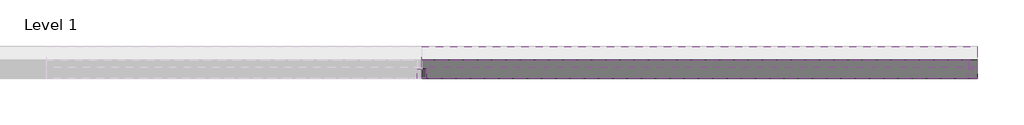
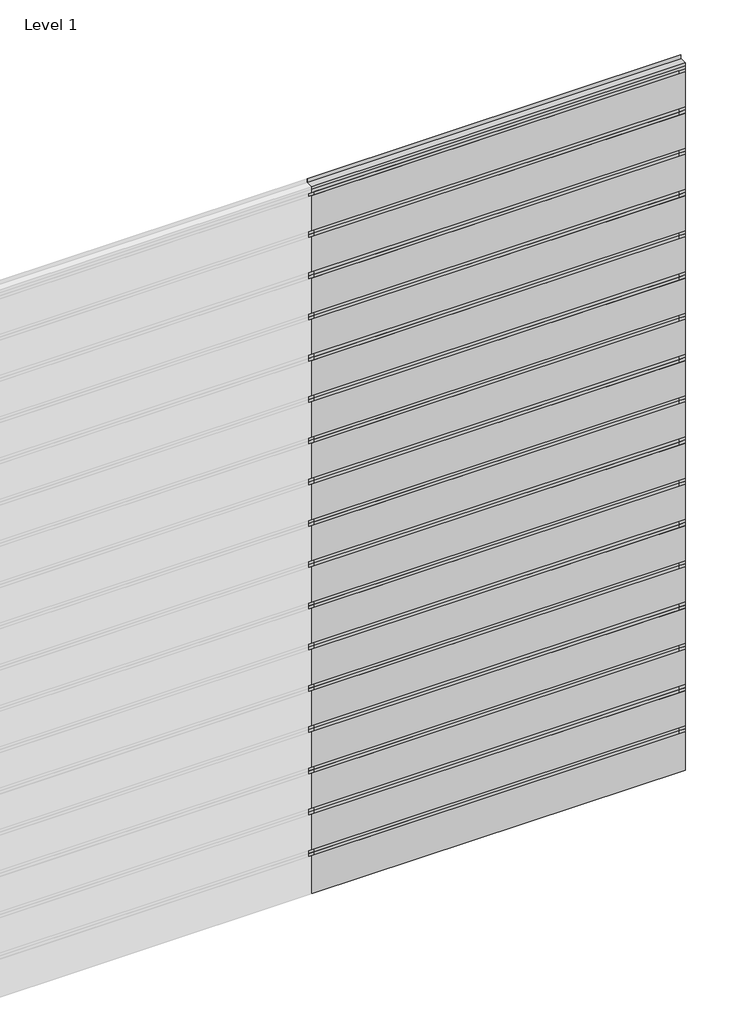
# One storey, part 2 of 2: 43 members, 36 plates.
"""IFC4 building model written with IfcOpenShell, lengths in millimetres."""

from ifc_helpers import new_model, si_unit, origin, place, context, project, spatial, transform, mapped, element, save
from components import rectangular_mullion_321bab66, rectangular_mullion_94c598e1, rectangular_mullion_98250b89, empty_system_panel_empty_eb7023d6, empty_system_panel_empty_e21ca438, empty_system_panel_empty_ca83fffd, empty_system_panel_empty_a0d4dec4, empty_system_panel_empty_5b0c2a42

model = new_model("IFC4")

# Units and contexts
model_context = context("Model", 3, world=origin())
ifc_project = project(units=[si_unit("LENGTHUNIT", "METRE", prefix="MILLI")], contexts=[model_context])

# Site, building, storey
site = spatial("IfcSite", under=ifc_project)
building = spatial("IfcBuilding", under=site)
storey = spatial("IfcBuildingStorey", under=building, Name="Level 1", Elevation=0.0)

# Members
placement = place(None, origin())
rectangular_mullion_shape = rectangular_mullion_321bab66(model_context)
element("IfcMember", 1, ObjectType="Rectangular Mullion : RSen_21_CWM_blade - linear 200_gen_duco projects", at=placement, inside=storey, context=model_context, shape_type="MappedRepresentation", body=[
    mapped(rectangular_mullion_shape, transform((3000.0, 3000.0, 3150.0), x_axis=(0.0, 0.0, 1.0), y_axis=(0.0, 1.0, 0.0), z_axis=(-1.0, 0.0, 0.0))),
])
element("IfcMember", 2, ObjectType="Rectangular Mullion : RSen_21_CWM_blade - linear 200_gen_duco projects", at=placement, inside=storey, context=model_context, shape_type="MappedRepresentation", body=[
    mapped(rectangular_mullion_shape, transform((3000.0, 3000.0, 3500.0), x_axis=(0.0, 0.0, 1.0), y_axis=(0.0, 1.0, 0.0), z_axis=(-1.0, 0.0, 0.0))),
])
element("IfcMember", 3, ObjectType="Rectangular Mullion : RSen_21_CWM_blade - linear 200_gen_duco projects", at=placement, inside=storey, context=model_context, shape_type="MappedRepresentation", body=[
    mapped(rectangular_mullion_shape, transform((3000.0, 3000.0, 3850.0), x_axis=(0.0, 0.0, 1.0), y_axis=(0.0, 1.0, 0.0), z_axis=(-1.0, 0.0, 0.0))),
])
element("IfcMember", 4, ObjectType="Rectangular Mullion : RSen_21_CWM_blade - linear 200_gen_duco projects", at=placement, inside=storey, context=model_context, shape_type="MappedRepresentation", body=[
    mapped(rectangular_mullion_shape, transform((3000.0, 3000.0, 4200.0), x_axis=(0.0, 0.0, 1.0), y_axis=(0.0, 1.0, 0.0), z_axis=(-1.0, 0.0, 0.0))),
])
element("IfcMember", 5, ObjectType="Rectangular Mullion : RSen_21_CWM_blade - linear 200_gen_duco projects", at=placement, inside=storey, context=model_context, shape_type="MappedRepresentation", body=[
    mapped(rectangular_mullion_shape, transform((3000.0, 3000.0, 4550.0), x_axis=(0.0, 0.0, 1.0), y_axis=(0.0, 1.0, 0.0), z_axis=(-1.0, 0.0, 0.0))),
])
element("IfcMember", 6, ObjectType="Rectangular Mullion : RSen_21_CWM_blade - linear 200_gen_duco projects", at=placement, inside=storey, context=model_context, shape_type="MappedRepresentation", body=[
    mapped(rectangular_mullion_shape, transform((3000.0, 3000.0, 4900.0), x_axis=(0.0, 0.0, 1.0), y_axis=(0.0, 1.0, 0.0), z_axis=(-1.0, 0.0, 0.0))),
])
element("IfcMember", 7, ObjectType="Rectangular Mullion : RSen_21_CWM_blade - linear 200_gen_duco projects", at=placement, inside=storey, context=model_context, shape_type="MappedRepresentation", body=[
    mapped(rectangular_mullion_shape, transform((3000.0, 3000.0, 5250.0), x_axis=(0.0, 0.0, 1.0), y_axis=(0.0, 1.0, 0.0), z_axis=(-1.0, 0.0, 0.0))),
])
element("IfcMember", 8, ObjectType="Rectangular Mullion : RSen_21_CWM_blade - linear 200_gen_duco projects", at=placement, inside=storey, context=model_context, shape_type="MappedRepresentation", body=[
    mapped(rectangular_mullion_shape, transform((3000.0, 3000.0, 5600.0), x_axis=(0.0, 0.0, 1.0), y_axis=(0.0, 1.0, 0.0), z_axis=(-1.0, 0.0, 0.0))),
])
element("IfcMember", 9, ObjectType="Rectangular Mullion : RSen_21_CWM_blade - linear 200_gen_duco projects", at=placement, inside=storey, context=model_context, shape_type="MappedRepresentation", body=[
    mapped(rectangular_mullion_shape, transform((3000.0, 3000.0, 5950.0), x_axis=(0.0, 0.0, 1.0), y_axis=(0.0, 1.0, 0.0), z_axis=(-1.0, 0.0, 0.0))),
])
rectangular_mullion_2_shape = rectangular_mullion_94c598e1(model_context)
element("IfcMember", 10, ObjectType="Rectangular Mullion : RSen_21_CWM_support profile 50x50_gen_duco projects", at=placement, inside=storey, context=model_context, shape_type="MappedRepresentation", body=[
    mapped(rectangular_mullion_2_shape, transform((3000.0, 3000.0, 0.0), x_axis=(-1.0, 0.0, 0.0), y_axis=(0.0, 1.0, 0.0), z_axis=(0.0, 0.0, -1.0))),
])
element("IfcMember", 11, ObjectType="Rectangular Mullion : RSen_21_CWM_support profile 50x50_gen_duco projects", at=placement, inside=storey, context=model_context, shape_type="MappedRepresentation", body=[
    mapped(rectangular_mullion_2_shape, transform((3000.0, 3000.0, 350.0), x_axis=(-1.0, 0.0, 0.0), y_axis=(0.0, 1.0, 0.0), z_axis=(0.0, 0.0, -1.0))),
])
element("IfcMember", 12, ObjectType="Rectangular Mullion : RSen_21_CWM_support profile 50x50_gen_duco projects", at=placement, inside=storey, context=model_context, shape_type="MappedRepresentation", body=[
    mapped(rectangular_mullion_2_shape, transform((3000.0, 3000.0, 700.0), x_axis=(-1.0, 0.0, 0.0), y_axis=(0.0, 1.0, 0.0), z_axis=(0.0, 0.0, -1.0))),
])
element("IfcMember", 13, ObjectType="Rectangular Mullion : RSen_21_CWM_support profile 50x50_gen_duco projects", at=placement, inside=storey, context=model_context, shape_type="MappedRepresentation", body=[
    mapped(rectangular_mullion_2_shape, transform((3000.0, 3000.0, 1050.0), x_axis=(-1.0, 0.0, 0.0), y_axis=(0.0, 1.0, 0.0), z_axis=(0.0, 0.0, -1.0))),
])
element("IfcMember", 14, ObjectType="Rectangular Mullion : RSen_21_CWM_support profile 50x50_gen_duco projects", at=placement, inside=storey, context=model_context, shape_type="MappedRepresentation", body=[
    mapped(rectangular_mullion_2_shape, transform((3000.0, 3000.0, 1400.0), x_axis=(-1.0, 0.0, 0.0), y_axis=(0.0, 1.0, 0.0), z_axis=(0.0, 0.0, -1.0))),
])
element("IfcMember", 15, ObjectType="Rectangular Mullion : RSen_21_CWM_support profile 50x50_gen_duco projects", at=placement, inside=storey, context=model_context, shape_type="MappedRepresentation", body=[
    mapped(rectangular_mullion_2_shape, transform((3000.0, 3000.0, 1750.0), x_axis=(-1.0, 0.0, 0.0), y_axis=(0.0, 1.0, 0.0), z_axis=(0.0, 0.0, -1.0))),
])
element("IfcMember", 16, ObjectType="Rectangular Mullion : RSen_21_CWM_support profile 50x50_gen_duco projects", at=placement, inside=storey, context=model_context, shape_type="MappedRepresentation", body=[
    mapped(rectangular_mullion_2_shape, transform((3000.0, 3000.0, 2100.0), x_axis=(-1.0, 0.0, 0.0), y_axis=(0.0, 1.0, 0.0), z_axis=(0.0, 0.0, -1.0))),
])
element("IfcMember", 17, ObjectType="Rectangular Mullion : RSen_21_CWM_support profile 50x50_gen_duco projects", at=placement, inside=storey, context=model_context, shape_type="MappedRepresentation", body=[
    mapped(rectangular_mullion_2_shape, transform((3000.0, 3000.0, 2450.0), x_axis=(-1.0, 0.0, 0.0), y_axis=(0.0, 1.0, 0.0), z_axis=(0.0, 0.0, -1.0))),
])
element("IfcMember", 18, ObjectType="Rectangular Mullion : RSen_21_CWM_support profile 50x50_gen_duco projects", at=placement, inside=storey, context=model_context, shape_type="MappedRepresentation", body=[
    mapped(rectangular_mullion_2_shape, transform((3000.0, 3000.0, 2800.0), x_axis=(-1.0, 0.0, 0.0), y_axis=(0.0, 1.0, 0.0), z_axis=(0.0, 0.0, -1.0))),
])
element("IfcMember", 19, ObjectType="Rectangular Mullion : RSen_21_CWM_support profile 50x50_gen_duco projects", at=placement, inside=storey, context=model_context, shape_type="MappedRepresentation", body=[
    mapped(rectangular_mullion_2_shape, transform((3000.0, 3000.0, 3150.0), x_axis=(-1.0, 0.0, 0.0), y_axis=(0.0, 1.0, 0.0), z_axis=(0.0, 0.0, -1.0))),
])
element("IfcMember", 20, ObjectType="Rectangular Mullion : RSen_21_CWM_support profile 50x50_gen_duco projects", at=placement, inside=storey, context=model_context, shape_type="MappedRepresentation", body=[
    mapped(rectangular_mullion_2_shape, transform((3000.0, 3000.0, 3500.0), x_axis=(-1.0, 0.0, 0.0), y_axis=(0.0, 1.0, 0.0), z_axis=(0.0, 0.0, -1.0))),
])
element("IfcMember", 21, ObjectType="Rectangular Mullion : RSen_21_CWM_support profile 50x50_gen_duco projects", at=placement, inside=storey, context=model_context, shape_type="MappedRepresentation", body=[
    mapped(rectangular_mullion_2_shape, transform((3000.0, 3000.0, 3850.0), x_axis=(-1.0, 0.0, 0.0), y_axis=(0.0, 1.0, 0.0), z_axis=(0.0, 0.0, -1.0))),
])
element("IfcMember", 22, ObjectType="Rectangular Mullion : RSen_21_CWM_support profile 50x50_gen_duco projects", at=placement, inside=storey, context=model_context, shape_type="MappedRepresentation", body=[
    mapped(rectangular_mullion_2_shape, transform((3000.0, 3000.0, 4200.0), x_axis=(-1.0, 0.0, 0.0), y_axis=(0.0, 1.0, 0.0), z_axis=(0.0, 0.0, -1.0))),
])
element("IfcMember", 23, ObjectType="Rectangular Mullion : RSen_21_CWM_support profile 50x50_gen_duco projects", at=placement, inside=storey, context=model_context, shape_type="MappedRepresentation", body=[
    mapped(rectangular_mullion_2_shape, transform((3000.0, 3000.0, 4550.0), x_axis=(-1.0, 0.0, 0.0), y_axis=(0.0, 1.0, 0.0), z_axis=(0.0, 0.0, -1.0))),
])
element("IfcMember", 24, ObjectType="Rectangular Mullion : RSen_21_CWM_support profile 50x50_gen_duco projects", at=placement, inside=storey, context=model_context, shape_type="MappedRepresentation", body=[
    mapped(rectangular_mullion_2_shape, transform((3000.0, 3000.0, 4900.0), x_axis=(-1.0, 0.0, 0.0), y_axis=(0.0, 1.0, 0.0), z_axis=(0.0, 0.0, -1.0))),
])
element("IfcMember", 25, ObjectType="Rectangular Mullion : RSen_21_CWM_support profile 50x50_gen_duco projects", at=placement, inside=storey, context=model_context, shape_type="MappedRepresentation", body=[
    mapped(rectangular_mullion_2_shape, transform((3000.0, 3000.0, 5250.0), x_axis=(-1.0, 0.0, 0.0), y_axis=(0.0, 1.0, 0.0), z_axis=(0.0, 0.0, -1.0))),
])
element("IfcMember", 26, ObjectType="Rectangular Mullion : RSen_21_CWM_support profile 50x50_gen_duco projects", at=placement, inside=storey, context=model_context, shape_type="MappedRepresentation", body=[
    mapped(rectangular_mullion_2_shape, transform((3000.0, 3000.0, 5600.0), x_axis=(-1.0, 0.0, 0.0), y_axis=(0.0, 1.0, 0.0), z_axis=(0.0, 0.0, -1.0))),
])
rectangular_mullion_3_shape = rectangular_mullion_98250b89(model_context)
element("IfcMember", 27, ObjectType="Rectangular Mullion : RSen_21_CWM_support profile 50x50 - right_gen_duco projects", at=placement, inside=storey, context=model_context, shape_type="MappedRepresentation", body=[
    mapped(rectangular_mullion_3_shape, transform((6000.0, 3000.0, 350.0), x_axis=(1.0, 0.0, 0.0), y_axis=(0.0, 1.0, 0.0), z_axis=(0.0, 0.0, 1.0))),
])
element("IfcMember", 28, ObjectType="Rectangular Mullion : RSen_21_CWM_support profile 50x50 - right_gen_duco projects", at=placement, inside=storey, context=model_context, shape_type="MappedRepresentation", body=[
    mapped(rectangular_mullion_3_shape, transform((6000.0, 3000.0, 700.0), x_axis=(1.0, 0.0, 0.0), y_axis=(0.0, 1.0, 0.0), z_axis=(0.0, 0.0, 1.0))),
])
element("IfcMember", 29, ObjectType="Rectangular Mullion : RSen_21_CWM_support profile 50x50 - right_gen_duco projects", at=placement, inside=storey, context=model_context, shape_type="MappedRepresentation", body=[
    mapped(rectangular_mullion_3_shape, transform((6000.0, 3000.0, 1050.0), x_axis=(1.0, 0.0, 0.0), y_axis=(0.0, 1.0, 0.0), z_axis=(0.0, 0.0, 1.0))),
])
element("IfcMember", 30, ObjectType="Rectangular Mullion : RSen_21_CWM_support profile 50x50 - right_gen_duco projects", at=placement, inside=storey, context=model_context, shape_type="MappedRepresentation", body=[
    mapped(rectangular_mullion_3_shape, transform((6000.0, 3000.0, 1400.0), x_axis=(1.0, 0.0, 0.0), y_axis=(0.0, 1.0, 0.0), z_axis=(0.0, 0.0, 1.0))),
])
element("IfcMember", 31, ObjectType="Rectangular Mullion : RSen_21_CWM_support profile 50x50 - right_gen_duco projects", at=placement, inside=storey, context=model_context, shape_type="MappedRepresentation", body=[
    mapped(rectangular_mullion_3_shape, transform((6000.0, 3000.0, 1750.0), x_axis=(1.0, 0.0, 0.0), y_axis=(0.0, 1.0, 0.0), z_axis=(0.0, 0.0, 1.0))),
])
element("IfcMember", 32, ObjectType="Rectangular Mullion : RSen_21_CWM_support profile 50x50 - right_gen_duco projects", at=placement, inside=storey, context=model_context, shape_type="MappedRepresentation", body=[
    mapped(rectangular_mullion_3_shape, transform((6000.0, 3000.0, 2100.0), x_axis=(1.0, 0.0, 0.0), y_axis=(0.0, 1.0, 0.0), z_axis=(0.0, 0.0, 1.0))),
])
element("IfcMember", 33, ObjectType="Rectangular Mullion : RSen_21_CWM_support profile 50x50 - right_gen_duco projects", at=placement, inside=storey, context=model_context, shape_type="MappedRepresentation", body=[
    mapped(rectangular_mullion_3_shape, transform((6000.0, 3000.0, 2450.0), x_axis=(1.0, 0.0, 0.0), y_axis=(0.0, 1.0, 0.0), z_axis=(0.0, 0.0, 1.0))),
])
element("IfcMember", 34, ObjectType="Rectangular Mullion : RSen_21_CWM_support profile 50x50 - right_gen_duco projects", at=placement, inside=storey, context=model_context, shape_type="MappedRepresentation", body=[
    mapped(rectangular_mullion_3_shape, transform((6000.0, 3000.0, 2800.0), x_axis=(1.0, 0.0, 0.0), y_axis=(0.0, 1.0, 0.0), z_axis=(0.0, 0.0, 1.0))),
])
element("IfcMember", 35, ObjectType="Rectangular Mullion : RSen_21_CWM_support profile 50x50 - right_gen_duco projects", at=placement, inside=storey, context=model_context, shape_type="MappedRepresentation", body=[
    mapped(rectangular_mullion_3_shape, transform((6000.0, 3000.0, 3150.0), x_axis=(1.0, 0.0, 0.0), y_axis=(0.0, 1.0, 0.0), z_axis=(0.0, 0.0, 1.0))),
])
element("IfcMember", 36, ObjectType="Rectangular Mullion : RSen_21_CWM_support profile 50x50 - right_gen_duco projects", at=placement, inside=storey, context=model_context, shape_type="MappedRepresentation", body=[
    mapped(rectangular_mullion_3_shape, transform((6000.0, 3000.0, 3500.0), x_axis=(1.0, 0.0, 0.0), y_axis=(0.0, 1.0, 0.0), z_axis=(0.0, 0.0, 1.0))),
])
element("IfcMember", 37, ObjectType="Rectangular Mullion : RSen_21_CWM_support profile 50x50 - right_gen_duco projects", at=placement, inside=storey, context=model_context, shape_type="MappedRepresentation", body=[
    mapped(rectangular_mullion_3_shape, transform((6000.0, 3000.0, 3850.0), x_axis=(1.0, 0.0, 0.0), y_axis=(0.0, 1.0, 0.0), z_axis=(0.0, 0.0, 1.0))),
])
element("IfcMember", 38, ObjectType="Rectangular Mullion : RSen_21_CWM_support profile 50x50 - right_gen_duco projects", at=placement, inside=storey, context=model_context, shape_type="MappedRepresentation", body=[
    mapped(rectangular_mullion_3_shape, transform((6000.0, 3000.0, 4200.0), x_axis=(1.0, 0.0, 0.0), y_axis=(0.0, 1.0, 0.0), z_axis=(0.0, 0.0, 1.0))),
])
element("IfcMember", 39, ObjectType="Rectangular Mullion : RSen_21_CWM_support profile 50x50 - right_gen_duco projects", at=placement, inside=storey, context=model_context, shape_type="MappedRepresentation", body=[
    mapped(rectangular_mullion_3_shape, transform((6000.0, 3000.0, 4550.0), x_axis=(1.0, 0.0, 0.0), y_axis=(0.0, 1.0, 0.0), z_axis=(0.0, 0.0, 1.0))),
])
element("IfcMember", 40, ObjectType="Rectangular Mullion : RSen_21_CWM_support profile 50x50 - right_gen_duco projects", at=placement, inside=storey, context=model_context, shape_type="MappedRepresentation", body=[
    mapped(rectangular_mullion_3_shape, transform((6000.0, 3000.0, 4900.0), x_axis=(1.0, 0.0, 0.0), y_axis=(0.0, 1.0, 0.0), z_axis=(0.0, 0.0, 1.0))),
])
element("IfcMember", 41, ObjectType="Rectangular Mullion : RSen_21_CWM_support profile 50x50 - right_gen_duco projects", at=placement, inside=storey, context=model_context, shape_type="MappedRepresentation", body=[
    mapped(rectangular_mullion_3_shape, transform((6000.0, 3000.0, 5250.0), x_axis=(1.0, 0.0, 0.0), y_axis=(0.0, 1.0, 0.0), z_axis=(0.0, 0.0, 1.0))),
])
element("IfcMember", 42, ObjectType="Rectangular Mullion : RSen_21_CWM_support profile 50x50 - right_gen_duco projects", at=placement, inside=storey, context=model_context, shape_type="MappedRepresentation", body=[
    mapped(rectangular_mullion_3_shape, transform((6000.0, 3000.0, 5600.0), x_axis=(1.0, 0.0, 0.0), y_axis=(0.0, 1.0, 0.0), z_axis=(0.0, 0.0, 1.0))),
])
element("IfcMember", 43, ObjectType="Rectangular Mullion : RSen_21_CWM_support profile 50x50 - right_gen_duco projects", at=placement, inside=storey, context=model_context, shape_type="MappedRepresentation", body=[
    mapped(rectangular_mullion_3_shape, transform((6000.0, 3000.0, 5950.0), x_axis=(1.0, 0.0, 0.0), y_axis=(0.0, 1.0, 0.0), z_axis=(0.0, 0.0, 1.0))),
])

# Plates
empty_system_panel_empty_shape = empty_system_panel_empty_eb7023d6(model_context)
element("IfcPlate", 44, ObjectType="Empty System Panel : Empty", at=placement, inside=storey, context=model_context, shape_type="MappedRepresentation", body=[
    mapped(empty_system_panel_empty_shape, transform((4500.0, 3000.0, 5976.1629509), x_axis=(-1.0, 0.0, 0.0), y_axis=(0.0, -1.0, 0.0), z_axis=(0.0, 0.0, 1.0))),
])
empty_system_panel_empty_2_shape = empty_system_panel_empty_e21ca438(model_context)
element("IfcPlate", 45, ObjectType="Empty System Panel : Empty", at=placement, inside=storey, context=model_context, shape_type="MappedRepresentation", body=[
    mapped(empty_system_panel_empty_2_shape, transform((4500.0, 3000.0, 0.0), x_axis=(-1.0, 0.0, 0.0), y_axis=(0.0, -1.0, 0.0), z_axis=(0.0, 0.0, 1.0))),
])
empty_system_panel_empty_3_shape = empty_system_panel_empty_ca83fffd(model_context)
element("IfcPlate", 46, ObjectType="Empty System Panel : Empty", at=placement, inside=storey, context=model_context, shape_type="MappedRepresentation", body=[
    mapped(empty_system_panel_empty_3_shape, transform((4500.0, 3000.0, 376.1629509), x_axis=(-1.0, 0.0, 0.0), y_axis=(0.0, -1.0, 0.0), z_axis=(0.0, 0.0, 1.0))),
])
element("IfcPlate", 47, ObjectType="Empty System Panel : Empty", at=placement, inside=storey, context=model_context, shape_type="MappedRepresentation", body=[
    mapped(empty_system_panel_empty_3_shape, transform((4500.0, 3000.0, 726.1629509), x_axis=(-1.0, 0.0, 0.0), y_axis=(0.0, -1.0, 0.0), z_axis=(0.0, 0.0, 1.0))),
])
element("IfcPlate", 48, ObjectType="Empty System Panel : Empty", at=placement, inside=storey, context=model_context, shape_type="MappedRepresentation", body=[
    mapped(empty_system_panel_empty_3_shape, transform((4500.0, 3000.0, 1076.1629509), x_axis=(-1.0, 0.0, 0.0), y_axis=(0.0, -1.0, 0.0), z_axis=(0.0, 0.0, 1.0))),
])
element("IfcPlate", 49, ObjectType="Empty System Panel : Empty", at=placement, inside=storey, context=model_context, shape_type="MappedRepresentation", body=[
    mapped(empty_system_panel_empty_3_shape, transform((4500.0, 3000.0, 1426.1629509), x_axis=(-1.0, 0.0, 0.0), y_axis=(0.0, -1.0, 0.0), z_axis=(0.0, 0.0, 1.0))),
])
element("IfcPlate", 50, ObjectType="Empty System Panel : Empty", at=placement, inside=storey, context=model_context, shape_type="MappedRepresentation", body=[
    mapped(empty_system_panel_empty_3_shape, transform((4500.0, 3000.0, 1776.1629509), x_axis=(-1.0, 0.0, 0.0), y_axis=(0.0, -1.0, 0.0), z_axis=(0.0, 0.0, 1.0))),
])
element("IfcPlate", 51, ObjectType="Empty System Panel : Empty", at=placement, inside=storey, context=model_context, shape_type="MappedRepresentation", body=[
    mapped(empty_system_panel_empty_3_shape, transform((4500.0, 3000.0, 2126.1629509), x_axis=(-1.0, 0.0, 0.0), y_axis=(0.0, -1.0, 0.0), z_axis=(0.0, 0.0, 1.0))),
])
element("IfcPlate", 52, ObjectType="Empty System Panel : Empty", at=placement, inside=storey, context=model_context, shape_type="MappedRepresentation", body=[
    mapped(empty_system_panel_empty_3_shape, transform((4500.0, 3000.0, 2476.1629509), x_axis=(-1.0, 0.0, 0.0), y_axis=(0.0, -1.0, 0.0), z_axis=(0.0, 0.0, 1.0))),
])
element("IfcPlate", 53, ObjectType="Empty System Panel : Empty", at=placement, inside=storey, context=model_context, shape_type="MappedRepresentation", body=[
    mapped(empty_system_panel_empty_3_shape, transform((4500.0, 3000.0, 2826.1629509), x_axis=(-1.0, 0.0, 0.0), y_axis=(0.0, -1.0, 0.0), z_axis=(0.0, 0.0, 1.0))),
])
element("IfcPlate", 54, ObjectType="Empty System Panel : Empty", at=placement, inside=storey, context=model_context, shape_type="MappedRepresentation", body=[
    mapped(empty_system_panel_empty_3_shape, transform((4500.0, 3000.0, 3176.1629509), x_axis=(-1.0, 0.0, 0.0), y_axis=(0.0, -1.0, 0.0), z_axis=(0.0, 0.0, 1.0))),
])
element("IfcPlate", 55, ObjectType="Empty System Panel : Empty", at=placement, inside=storey, context=model_context, shape_type="MappedRepresentation", body=[
    mapped(empty_system_panel_empty_3_shape, transform((4500.0, 3000.0, 3526.1629509), x_axis=(-1.0, 0.0, 0.0), y_axis=(0.0, -1.0, 0.0), z_axis=(0.0, 0.0, 1.0))),
])
element("IfcPlate", 56, ObjectType="Empty System Panel : Empty", at=placement, inside=storey, context=model_context, shape_type="MappedRepresentation", body=[
    mapped(empty_system_panel_empty_3_shape, transform((4500.0, 3000.0, 3876.1629509), x_axis=(-1.0, 0.0, 0.0), y_axis=(0.0, -1.0, 0.0), z_axis=(0.0, 0.0, 1.0))),
])
element("IfcPlate", 57, ObjectType="Empty System Panel : Empty", at=placement, inside=storey, context=model_context, shape_type="MappedRepresentation", body=[
    mapped(empty_system_panel_empty_3_shape, transform((4500.0, 3000.0, 4226.1629509), x_axis=(-1.0, 0.0, 0.0), y_axis=(0.0, -1.0, 0.0), z_axis=(0.0, 0.0, 1.0))),
])
element("IfcPlate", 58, ObjectType="Empty System Panel : Empty", at=placement, inside=storey, context=model_context, shape_type="MappedRepresentation", body=[
    mapped(empty_system_panel_empty_3_shape, transform((4500.0, 3000.0, 4576.1629509), x_axis=(-1.0, 0.0, 0.0), y_axis=(0.0, -1.0, 0.0), z_axis=(0.0, 0.0, 1.0))),
])
element("IfcPlate", 59, ObjectType="Empty System Panel : Empty", at=placement, inside=storey, context=model_context, shape_type="MappedRepresentation", body=[
    mapped(empty_system_panel_empty_3_shape, transform((4500.0, 3000.0, 4926.1629509), x_axis=(-1.0, 0.0, 0.0), y_axis=(0.0, -1.0, 0.0), z_axis=(0.0, 0.0, 1.0))),
])
element("IfcPlate", 60, ObjectType="Empty System Panel : Empty", at=placement, inside=storey, context=model_context, shape_type="MappedRepresentation", body=[
    mapped(empty_system_panel_empty_3_shape, transform((4500.0, 3000.0, 5276.1629509), x_axis=(-1.0, 0.0, 0.0), y_axis=(0.0, -1.0, 0.0), z_axis=(0.0, 0.0, 1.0))),
])
element("IfcPlate", 61, ObjectType="Empty System Panel : Empty", at=placement, inside=storey, context=model_context, shape_type="MappedRepresentation", body=[
    mapped(empty_system_panel_empty_3_shape, transform((4500.0, 3000.0, 5626.1629509), x_axis=(-1.0, 0.0, 0.0), y_axis=(0.0, -1.0, 0.0), z_axis=(0.0, 0.0, 1.0))),
])
empty_system_panel_empty_4_shape = empty_system_panel_empty_a0d4dec4(model_context)
element("IfcPlate", 62, ObjectType="Empty System Panel : Empty", at=placement, inside=storey, context=model_context, shape_type="MappedRepresentation", body=[
    mapped(empty_system_panel_empty_4_shape, transform((4487.5, 3000.0, 0.0), x_axis=(-1.0, 0.0, 0.0), y_axis=(0.0, -1.0, 0.0), z_axis=(0.0, 0.0, 1.0))),
])
element("IfcPlate", 63, ObjectType="Empty System Panel : Empty", at=placement, inside=storey, context=model_context, shape_type="MappedRepresentation", body=[
    mapped(empty_system_panel_empty_4_shape, transform((4487.5, 3000.0, 350.0), x_axis=(-1.0, 0.0, 0.0), y_axis=(0.0, -1.0, 0.0), z_axis=(0.0, 0.0, 1.0))),
])
element("IfcPlate", 64, ObjectType="Empty System Panel : Empty", at=placement, inside=storey, context=model_context, shape_type="MappedRepresentation", body=[
    mapped(empty_system_panel_empty_4_shape, transform((4487.5, 3000.0, 700.0), x_axis=(-1.0, 0.0, 0.0), y_axis=(0.0, -1.0, 0.0), z_axis=(0.0, 0.0, 1.0))),
])
element("IfcPlate", 65, ObjectType="Empty System Panel : Empty", at=placement, inside=storey, context=model_context, shape_type="MappedRepresentation", body=[
    mapped(empty_system_panel_empty_4_shape, transform((4487.5, 3000.0, 1050.0), x_axis=(-1.0, 0.0, 0.0), y_axis=(0.0, -1.0, 0.0), z_axis=(0.0, 0.0, 1.0))),
])
element("IfcPlate", 66, ObjectType="Empty System Panel : Empty", at=placement, inside=storey, context=model_context, shape_type="MappedRepresentation", body=[
    mapped(empty_system_panel_empty_4_shape, transform((4487.5, 3000.0, 1400.0), x_axis=(-1.0, 0.0, 0.0), y_axis=(0.0, -1.0, 0.0), z_axis=(0.0, 0.0, 1.0))),
])
element("IfcPlate", 67, ObjectType="Empty System Panel : Empty", at=placement, inside=storey, context=model_context, shape_type="MappedRepresentation", body=[
    mapped(empty_system_panel_empty_4_shape, transform((4487.5, 3000.0, 1750.0), x_axis=(-1.0, 0.0, 0.0), y_axis=(0.0, -1.0, 0.0), z_axis=(0.0, 0.0, 1.0))),
])
element("IfcPlate", 68, ObjectType="Empty System Panel : Empty", at=placement, inside=storey, context=model_context, shape_type="MappedRepresentation", body=[
    mapped(empty_system_panel_empty_4_shape, transform((4487.5, 3000.0, 2100.0), x_axis=(-1.0, 0.0, 0.0), y_axis=(0.0, -1.0, 0.0), z_axis=(0.0, 0.0, 1.0))),
])
element("IfcPlate", 69, ObjectType="Empty System Panel : Empty", at=placement, inside=storey, context=model_context, shape_type="MappedRepresentation", body=[
    mapped(empty_system_panel_empty_4_shape, transform((4487.5, 3000.0, 2450.0), x_axis=(-1.0, 0.0, 0.0), y_axis=(0.0, -1.0, 0.0), z_axis=(0.0, 0.0, 1.0))),
])
element("IfcPlate", 70, ObjectType="Empty System Panel : Empty", at=placement, inside=storey, context=model_context, shape_type="MappedRepresentation", body=[
    mapped(empty_system_panel_empty_4_shape, transform((4487.5, 3000.0, 2800.0), x_axis=(-1.0, 0.0, 0.0), y_axis=(0.0, -1.0, 0.0), z_axis=(0.0, 0.0, 1.0))),
])
element("IfcPlate", 71, ObjectType="Empty System Panel : Empty", at=placement, inside=storey, context=model_context, shape_type="MappedRepresentation", body=[
    mapped(empty_system_panel_empty_4_shape, transform((4487.5, 3000.0, 3150.0), x_axis=(-1.0, 0.0, 0.0), y_axis=(0.0, -1.0, 0.0), z_axis=(0.0, 0.0, 1.0))),
])
element("IfcPlate", 72, ObjectType="Empty System Panel : Empty", at=placement, inside=storey, context=model_context, shape_type="MappedRepresentation", body=[
    mapped(empty_system_panel_empty_4_shape, transform((4487.5, 3000.0, 3500.0), x_axis=(-1.0, 0.0, 0.0), y_axis=(0.0, -1.0, 0.0), z_axis=(0.0, 0.0, 1.0))),
])
element("IfcPlate", 73, ObjectType="Empty System Panel : Empty", at=placement, inside=storey, context=model_context, shape_type="MappedRepresentation", body=[
    mapped(empty_system_panel_empty_4_shape, transform((4487.5, 3000.0, 3850.0), x_axis=(-1.0, 0.0, 0.0), y_axis=(0.0, -1.0, 0.0), z_axis=(0.0, 0.0, 1.0))),
])
element("IfcPlate", 74, ObjectType="Empty System Panel : Empty", at=placement, inside=storey, context=model_context, shape_type="MappedRepresentation", body=[
    mapped(empty_system_panel_empty_4_shape, transform((4487.5, 3000.0, 4200.0), x_axis=(-1.0, 0.0, 0.0), y_axis=(0.0, -1.0, 0.0), z_axis=(0.0, 0.0, 1.0))),
])
element("IfcPlate", 75, ObjectType="Empty System Panel : Empty", at=placement, inside=storey, context=model_context, shape_type="MappedRepresentation", body=[
    mapped(empty_system_panel_empty_4_shape, transform((4487.5, 3000.0, 4550.0), x_axis=(-1.0, 0.0, 0.0), y_axis=(0.0, -1.0, 0.0), z_axis=(0.0, 0.0, 1.0))),
])
element("IfcPlate", 76, ObjectType="Empty System Panel : Empty", at=placement, inside=storey, context=model_context, shape_type="MappedRepresentation", body=[
    mapped(empty_system_panel_empty_4_shape, transform((4487.5, 3000.0, 4900.0), x_axis=(-1.0, 0.0, 0.0), y_axis=(0.0, -1.0, 0.0), z_axis=(0.0, 0.0, 1.0))),
])
element("IfcPlate", 77, ObjectType="Empty System Panel : Empty", at=placement, inside=storey, context=model_context, shape_type="MappedRepresentation", body=[
    mapped(empty_system_panel_empty_4_shape, transform((4487.5, 3000.0, 5250.0), x_axis=(-1.0, 0.0, 0.0), y_axis=(0.0, -1.0, 0.0), z_axis=(0.0, 0.0, 1.0))),
])
element("IfcPlate", 78, ObjectType="Empty System Panel : Empty", at=placement, inside=storey, context=model_context, shape_type="MappedRepresentation", body=[
    mapped(empty_system_panel_empty_4_shape, transform((4487.5, 3000.0, 5600.0), x_axis=(-1.0, 0.0, 0.0), y_axis=(0.0, -1.0, 0.0), z_axis=(0.0, 0.0, 1.0))),
])
empty_system_panel_empty_5_shape = empty_system_panel_empty_5b0c2a42(model_context)
element("IfcPlate", 79, ObjectType="Empty System Panel : Empty", at=placement, inside=storey, context=model_context, shape_type="MappedRepresentation", body=[
    mapped(empty_system_panel_empty_5_shape, transform((4500.0, 3000.0, 5950.0), x_axis=(-1.0, 0.0, 0.0), y_axis=(0.0, -1.0, 0.0), z_axis=(0.0, 0.0, 1.0))),
])

save(model, "model.ifc")
